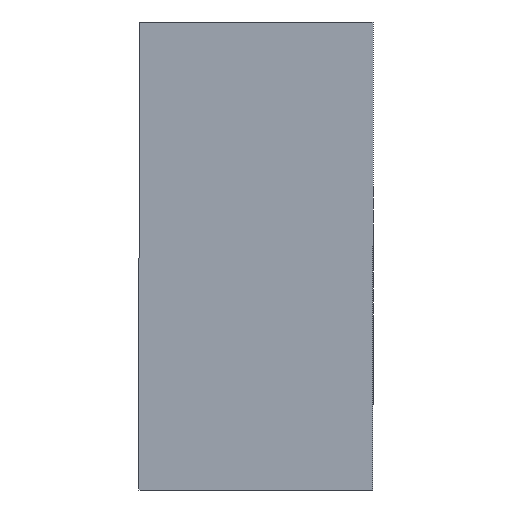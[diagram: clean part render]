
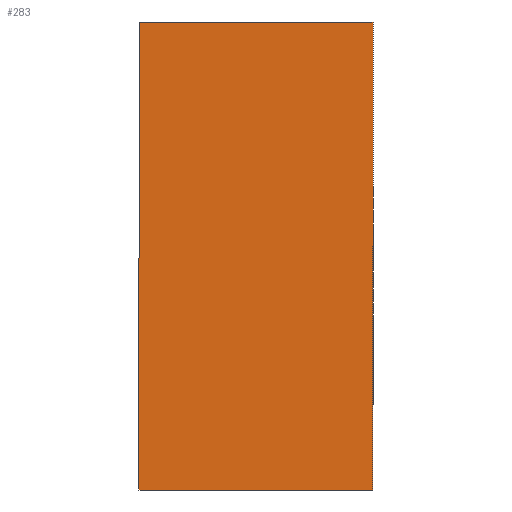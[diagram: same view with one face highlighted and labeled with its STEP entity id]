
A CAD part, left-side view. The second image highlights one B-rep face of the part: STEP entity #283.
In plain terms, the highlighted planar face has unit normal (-1, 0, 0).
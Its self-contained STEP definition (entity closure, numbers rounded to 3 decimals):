
#4 = CARTESIAN_POINT ( 'NONE',  ( -152., 0., 24. ) ) ;
#9 = CARTESIAN_POINT ( 'NONE',  ( -152., 24., 24. ) ) ;
#48 = CARTESIAN_POINT ( 'NONE',  ( -152., 24., 24. ) ) ;
#49 = LINE ( 'NONE', #244, #242 ) ;
#50 = PLANE ( 'NONE',  #113 ) ;
#57 = ORIENTED_EDGE ( 'NONE', *, *, #115, .T. ) ;
#63 = EDGE_CURVE ( 'NONE', #293, #181, #136, .T. ) ;
#76 = CARTESIAN_POINT ( 'NONE',  ( -152., 24., 24. ) ) ;
#89 = CARTESIAN_POINT ( 'NONE',  ( -152., 0., 24. ) ) ;
#99 = EDGE_LOOP ( 'NONE', ( #57, #175, #247, #250 ) ) ;
#113 = AXIS2_PLACEMENT_3D ( 'NONE', #9, #295, #176 ) ;
#115 = EDGE_CURVE ( 'NONE', #178, #181, #207, .T. ) ;
#117 = VECTOR ( 'NONE', #246, 1000. ) ;
#122 = CARTESIAN_POINT ( 'NONE',  ( -152., 24., 24. ) ) ;
#136 = LINE ( 'NONE', #48, #269 ) ;
#138 = CARTESIAN_POINT ( 'NONE',  ( -152., 0., -24. ) ) ;
#149 = DIRECTION ( 'NONE',  ( 0., -1., 0. ) ) ;
#175 = ORIENTED_EDGE ( 'NONE', *, *, #63, .F. ) ;
#176 = DIRECTION ( 'NONE',  ( 0., 0., -1. ) ) ;
#178 = VERTEX_POINT ( 'NONE', #138 ) ;
#181 = VERTEX_POINT ( 'NONE', #4 ) ;
#188 = DIRECTION ( 'NONE',  ( 0., 0., 1. ) ) ;
#205 = VECTOR ( 'NONE', #188, 1000. ) ;
#207 = LINE ( 'NONE', #89, #205 ) ;
#208 = EDGE_CURVE ( 'NONE', #297, #178, #49, .T. ) ;
#242 = VECTOR ( 'NONE', #149, 1000. ) ;
#243 = CARTESIAN_POINT ( 'NONE',  ( -152., 24., -24. ) ) ;
#244 = CARTESIAN_POINT ( 'NONE',  ( -152., 24., -24. ) ) ;
#246 = DIRECTION ( 'NONE',  ( 0., 0., 1. ) ) ;
#247 = ORIENTED_EDGE ( 'NONE', *, *, #303, .F. ) ;
#250 = ORIENTED_EDGE ( 'NONE', *, *, #208, .T. ) ;
#269 = VECTOR ( 'NONE', #284, 1000. ) ;
#283 = ADVANCED_FACE ( 'NONE', ( #290 ), #50, .F. ) ;
#284 = DIRECTION ( 'NONE',  ( 0., -1., 0. ) ) ;
#290 = FACE_OUTER_BOUND ( 'NONE', #99, .T. ) ;
#291 = LINE ( 'NONE', #76, #117 ) ;
#293 = VERTEX_POINT ( 'NONE', #122 ) ;
#295 = DIRECTION ( 'NONE',  ( 1., 0., 0. ) ) ;
#297 = VERTEX_POINT ( 'NONE', #243 ) ;
#303 = EDGE_CURVE ( 'NONE', #297, #293, #291, .T. ) ;
